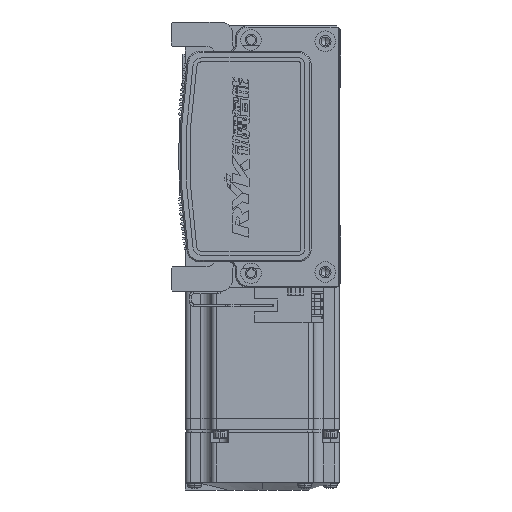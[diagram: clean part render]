
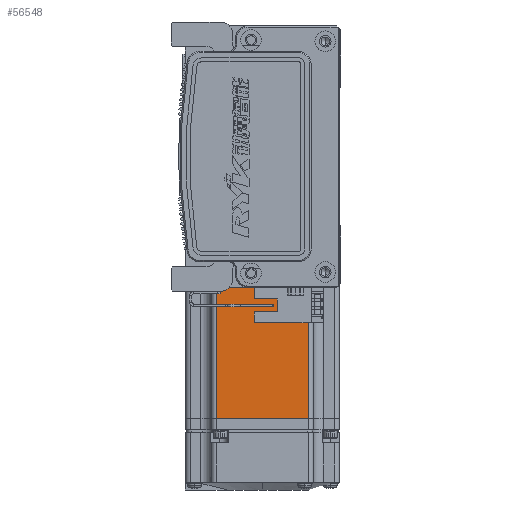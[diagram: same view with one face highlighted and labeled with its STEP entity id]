
A CAD part, left-side view. The second image highlights one B-rep face of the part: STEP entity #56548.
In plain terms, the highlighted planar face has unit normal (-1, 0, 0) as drawn and (0, 0, 1) by its records, which use the part's own axes.
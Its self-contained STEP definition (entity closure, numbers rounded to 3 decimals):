
#872 = ORIENTED_EDGE ( 'NONE', *, *, #15999, .F. ) ;
#3529 = PLANE ( 'NONE',  #9535 ) ;
#3739 = LINE ( 'NONE', #40390, #38257 ) ;
#4475 = CARTESIAN_POINT ( 'NONE',  ( -6.5, -18., 30. ) ) ;
#4862 = ORIENTED_EDGE ( 'NONE', *, *, #65308, .T. ) ;
#6362 = DIRECTION ( 'NONE',  ( 0., -1., 0. ) ) ;
#9523 = ORIENTED_EDGE ( 'NONE', *, *, #36704, .F. ) ;
#9535 = AXIS2_PLACEMENT_3D ( 'NONE', #44836, #45743, #55375 ) ;
#9765 = DIRECTION ( 'NONE',  ( -1., 0., 0. ) ) ;
#12456 = CARTESIAN_POINT ( 'NONE',  ( -70.95, 18., 30. ) ) ;
#15745 = FACE_OUTER_BOUND ( 'NONE', #52408, .T. ) ;
#15999 = EDGE_CURVE ( 'NONE', #19132, #17657, #21114, .T. ) ;
#17657 = VERTEX_POINT ( 'NONE', #50870 ) ;
#18468 = VERTEX_POINT ( 'NONE', #12456 ) ;
#19132 = VERTEX_POINT ( 'NONE', #39782 ) ;
#21114 = LINE ( 'NONE', #4475, #61347 ) ;
#24918 = CARTESIAN_POINT ( 'NONE',  ( -7.75, 18., 30. ) ) ;
#29675 = DIRECTION ( 'NONE',  ( 0., -1., 0. ) ) ;
#30669 = VECTOR ( 'NONE', #6362, 1000. ) ;
#36704 = EDGE_CURVE ( 'NONE', #47607, #19132, #44544, .T. ) ;
#37806 = CARTESIAN_POINT ( 'NONE',  ( -7.75, 0., 30. ) ) ;
#38257 = VECTOR ( 'NONE', #29675, 1000. ) ;
#39782 = CARTESIAN_POINT ( 'NONE',  ( -7.75, -18., 30. ) ) ;
#40390 = CARTESIAN_POINT ( 'NONE',  ( -70.95, 0., 30. ) ) ;
#41007 = LINE ( 'NONE', #65017, #68099 ) ;
#44544 = LINE ( 'NONE', #37806, #30669 ) ;
#44836 = CARTESIAN_POINT ( 'NONE',  ( -6.5, -25., 30. ) ) ;
#45743 = DIRECTION ( 'NONE',  ( 0., 0., 1. ) ) ;
#47607 = VERTEX_POINT ( 'NONE', #24918 ) ;
#49362 = ORIENTED_EDGE ( 'NONE', *, *, #53337, .T. ) ;
#49382 = DIRECTION ( 'NONE',  ( -1., 0., 0. ) ) ;
#50870 = CARTESIAN_POINT ( 'NONE',  ( -70.95, -18., 30. ) ) ;
#52408 = EDGE_LOOP ( 'NONE', ( #9523, #4862, #49362, #872 ) ) ;
#53337 = EDGE_CURVE ( 'NONE', #18468, #17657, #3739, .T. ) ;
#55375 = DIRECTION ( 'NONE',  ( 1., 0., 0. ) ) ;
#56548 = ADVANCED_FACE ( 'NONE', ( #15745 ), #3529, .T. ) ;
#61347 = VECTOR ( 'NONE', #9765, 1000. ) ;
#65017 = CARTESIAN_POINT ( 'NONE',  ( -6.5, 18., 30. ) ) ;
#65308 = EDGE_CURVE ( 'NONE', #47607, #18468, #41007, .T. ) ;
#68099 = VECTOR ( 'NONE', #49382, 1000. ) ;
